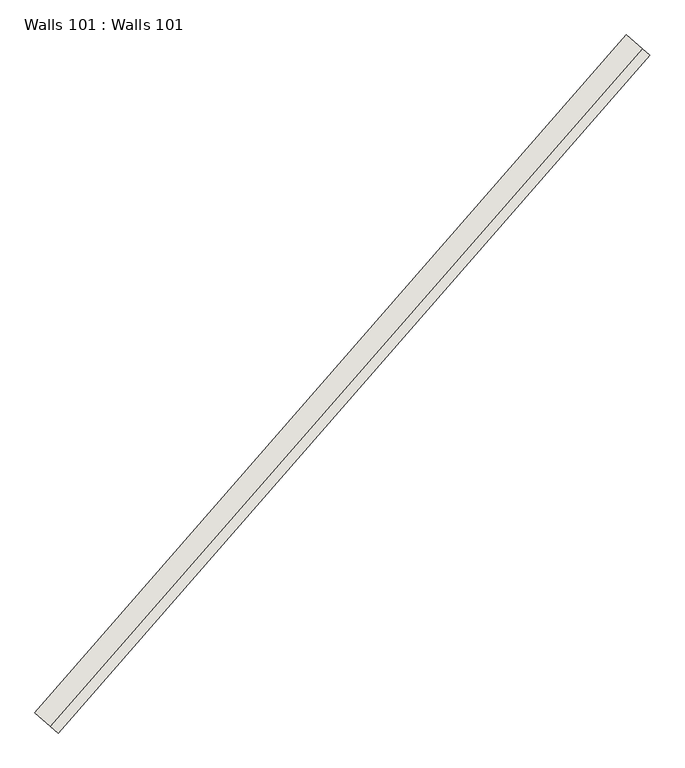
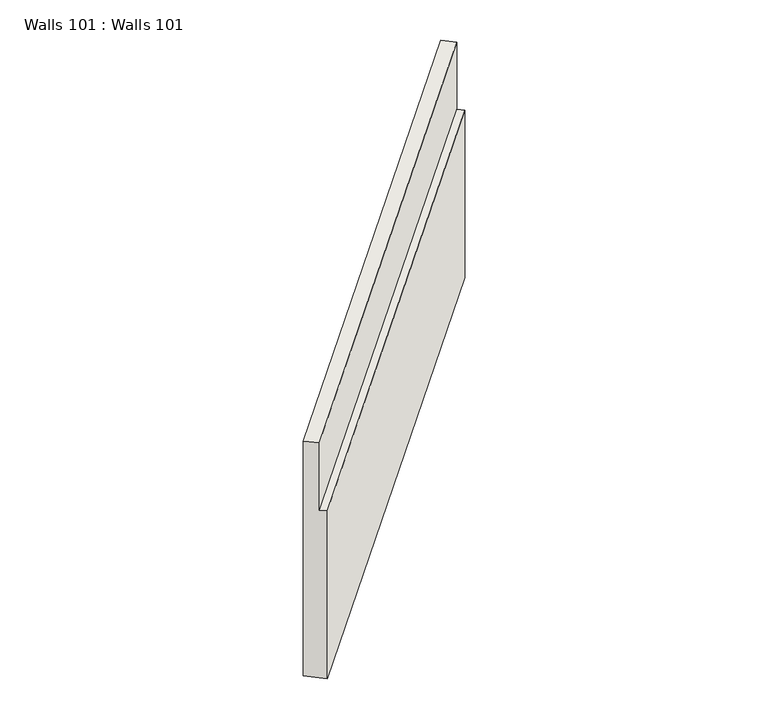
"""IFC4 building model written with IfcOpenShell, lengths in millimetres: wall geometry, Walls 101 : Walls 101."""

from ifc_helpers import new_model, si_unit, frame, origin, place, context, project, spatial, polyline, outline, extrude, source, transform, mapped, element, save


def walls_101_walls_101_393681be(model_context):
    return source(origin(), model_context, "Body", "SweptSolid", [
        extrude(outline(polyline([(658067.0, 0.0), (654567.0, 0.0), (654567.0, 300.0), (657067.0, 300.0), (657067.0, 200.0), (658067.0, 200.0), (658067.0, 0.0)])), frame((548654.370285, 456417.5158976, 0.0), z_axis=(0.6576128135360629, 0.7533560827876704, 0.0), x_axis=(0.0, 0.0, 1.0)), (0.0, 0.0, 1.0), 8700.0000002),
    ])


if __name__ == "__main__":
    model = new_model("IFC4")
    model_context = context("Model", 3, world=origin())
    ifc_project = project(units=[si_unit("LENGTHUNIT", "METRE", prefix="MILLI")], contexts=[model_context])
    site = spatial("IfcSite", under=ifc_project)
    building = spatial("IfcBuilding", under=site)
    placement = place(None, origin())
    walls_101_walls_101_shape = walls_101_walls_101_393681be(model_context)
    element("IfcWall", 1, ObjectType="Walls 101 : Walls 101", at=placement, inside=building, context=model_context, shape_type="MappedRepresentation", body=[
        mapped(walls_101_walls_101_shape, transform((0.0, 0.0, 0.0), x_axis=(1.0, 0.0, 0.0), y_axis=(0.0, 1.0, 0.0), z_axis=(0.0, 0.0, 1.0))),
    ])
    save(model, "model.ifc")
